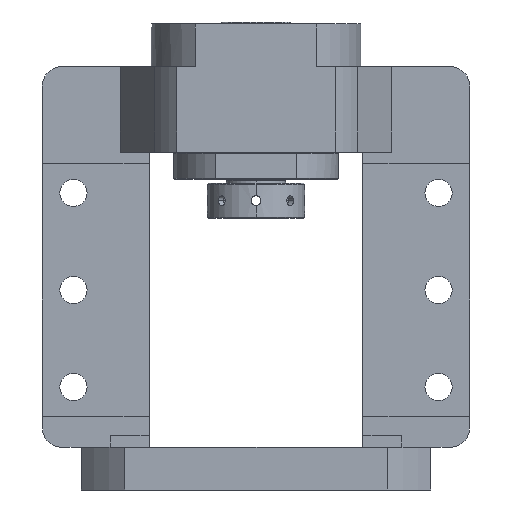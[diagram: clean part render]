
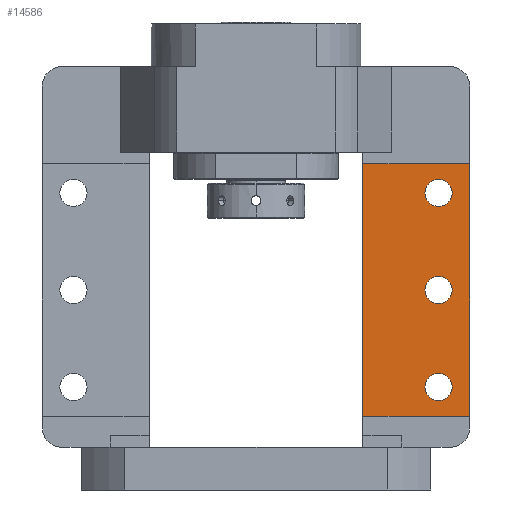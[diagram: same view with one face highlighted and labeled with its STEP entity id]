
A CAD part, front view. The second image highlights one B-rep face of the part: STEP entity #14586.
In plain terms, the highlighted planar face has unit normal (0, -1, 0).
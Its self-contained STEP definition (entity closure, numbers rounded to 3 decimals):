
#226 = DIRECTION ( 'NONE',  ( 0., -1., 0. ) ) ;
#375 = CARTESIAN_POINT ( 'NONE',  ( 94., 0., 60. ) ) ;
#487 = ORIENTED_EDGE ( 'NONE', *, *, #16020, .F. ) ;
#503 = CARTESIAN_POINT ( 'NONE',  ( 110., 0., 168. ) ) ;
#720 = CARTESIAN_POINT ( 'NONE',  ( 55., 0., 38. ) ) ;
#952 = ORIENTED_EDGE ( 'NONE', *, *, #11366, .F. ) ;
#1624 = LINE ( 'NONE', #19996, #9639 ) ;
#1986 = CIRCLE ( 'NONE', #18065, 7. ) ;
#2028 = CARTESIAN_POINT ( 'NONE',  ( 110., 0., 38. ) ) ;
#2405 = FACE_BOUND ( 'NONE', #4244, .T. ) ;
#2435 = VERTEX_POINT ( 'NONE', #17541 ) ;
#2658 = DIRECTION ( 'NONE',  ( 0., -1., 0. ) ) ;
#2905 = FACE_OUTER_BOUND ( 'NONE', #15928, .T. ) ;
#3050 = DIRECTION ( 'NONE',  ( 0., -1., 0. ) ) ;
#3333 = EDGE_CURVE ( 'NONE', #17802, #8301, #1624, .T. ) ;
#3632 = CIRCLE ( 'NONE', #13938, 7. ) ;
#3665 = DIRECTION ( 'NONE',  ( 0., -1., 0. ) ) ;
#3685 = VECTOR ( 'NONE', #12301, 1000. ) ;
#3752 = AXIS2_PLACEMENT_3D ( 'NONE', #16427, #6860, #18009 ) ;
#3910 = ORIENTED_EDGE ( 'NONE', *, *, #9132, .F. ) ;
#3972 = AXIS2_PLACEMENT_3D ( 'NONE', #16397, #6824, #17973 ) ;
#3989 = AXIS2_PLACEMENT_3D ( 'NONE', #18564, #2658, #13873 ) ;
#3997 = ORIENTED_EDGE ( 'NONE', *, *, #11210, .F. ) ;
#4244 = EDGE_LOOP ( 'NONE', ( #487, #3997 ) ) ;
#4266 = VERTEX_POINT ( 'NONE', #375 ) ;
#4500 = CARTESIAN_POINT ( 'NONE',  ( 94., 0., 110. ) ) ;
#4532 = EDGE_LOOP ( 'NONE', ( #20206, #952 ) ) ;
#4954 = EDGE_CURVE ( 'NONE', #13237, #2435, #12405, .T. ) ;
#5251 = CARTESIAN_POINT ( 'NONE',  ( 94., 0., 146. ) ) ;
#5500 = CARTESIAN_POINT ( 'NONE',  ( 55., 0., 168. ) ) ;
#5769 = AXIS2_PLACEMENT_3D ( 'NONE', #9090, #20234, #10722 ) ;
#5813 = PLANE ( 'NONE',  #3989 ) ;
#6274 = VERTEX_POINT ( 'NONE', #8384 ) ;
#6661 = FACE_BOUND ( 'NONE', #4532, .T. ) ;
#6824 = DIRECTION ( 'NONE',  ( 0., -1., 0. ) ) ;
#6860 = DIRECTION ( 'NONE',  ( 0., -1., 0. ) ) ;
#6996 = CARTESIAN_POINT ( 'NONE',  ( 94., 0., 160. ) ) ;
#7112 = DIRECTION ( 'NONE',  ( 0., 0., -1. ) ) ;
#7347 = ORIENTED_EDGE ( 'NONE', *, *, #13136, .T. ) ;
#7650 = VERTEX_POINT ( 'NONE', #20256 ) ;
#8301 = VERTEX_POINT ( 'NONE', #720 ) ;
#8384 = CARTESIAN_POINT ( 'NONE',  ( 110., 0., 38. ) ) ;
#8624 = EDGE_LOOP ( 'NONE', ( #10908, #14917 ) ) ;
#9090 = CARTESIAN_POINT ( 'NONE',  ( 94., 0., 153. ) ) ;
#9132 = EDGE_CURVE ( 'NONE', #19938, #6274, #16295, .T. ) ;
#9235 = AXIS2_PLACEMENT_3D ( 'NONE', #13277, #3665, #14883 ) ;
#9639 = VECTOR ( 'NONE', #13680, 1000. ) ;
#9809 = CARTESIAN_POINT ( 'NONE',  ( 94., 0., 53. ) ) ;
#10722 = DIRECTION ( 'NONE',  ( 0., 0., -1. ) ) ;
#10908 = ORIENTED_EDGE ( 'NONE', *, *, #15718, .F. ) ;
#11050 = CIRCLE ( 'NONE', #5769, 7. ) ;
#11210 = EDGE_CURVE ( 'NONE', #4266, #7650, #1986, .T. ) ;
#11366 = EDGE_CURVE ( 'NONE', #15287, #16824, #12262, .T. ) ;
#11430 = DIRECTION ( 'NONE',  ( 0., 0., -1. ) ) ;
#11644 = DIRECTION ( 'NONE',  ( 1., 0., 0. ) ) ;
#12262 = CIRCLE ( 'NONE', #3752, 7. ) ;
#12301 = DIRECTION ( 'NONE',  ( -1., 0., 0. ) ) ;
#12373 = CARTESIAN_POINT ( 'NONE',  ( 110., 0., 168. ) ) ;
#12405 = CIRCLE ( 'NONE', #3972, 7. ) ;
#12578 = CIRCLE ( 'NONE', #9235, 7. ) ;
#12654 = CARTESIAN_POINT ( 'NONE',  ( 94., 0., 103. ) ) ;
#12721 = LINE ( 'NONE', #12373, #3685 ) ;
#13136 = EDGE_CURVE ( 'NONE', #19938, #17802, #12721, .T. ) ;
#13237 = VERTEX_POINT ( 'NONE', #4500 ) ;
#13277 = CARTESIAN_POINT ( 'NONE',  ( 94., 0., 53. ) ) ;
#13435 = CARTESIAN_POINT ( 'NONE',  ( 110., 0., 225. ) ) ;
#13680 = DIRECTION ( 'NONE',  ( 0., 0., -1. ) ) ;
#13873 = DIRECTION ( 'NONE',  ( 0., 0., -1. ) ) ;
#13926 = VECTOR ( 'NONE', #11644, 1000. ) ;
#13938 = AXIS2_PLACEMENT_3D ( 'NONE', #12654, #3050, #14258 ) ;
#14258 = DIRECTION ( 'NONE',  ( 0., 0., -1. ) ) ;
#14586 = ADVANCED_FACE ( 'NONE', ( #6661, #2405, #15189, #2905 ), #5813, .T. ) ;
#14883 = DIRECTION ( 'NONE',  ( 0., 0., -1. ) ) ;
#14917 = ORIENTED_EDGE ( 'NONE', *, *, #4954, .F. ) ;
#15183 = EDGE_CURVE ( 'NONE', #8301, #6274, #17632, .T. ) ;
#15189 = FACE_BOUND ( 'NONE', #8624, .T. ) ;
#15287 = VERTEX_POINT ( 'NONE', #6996 ) ;
#15718 = EDGE_CURVE ( 'NONE', #2435, #13237, #3632, .T. ) ;
#15821 = ORIENTED_EDGE ( 'NONE', *, *, #15183, .T. ) ;
#15928 = EDGE_LOOP ( 'NONE', ( #3910, #7347, #18391, #15821 ) ) ;
#16020 = EDGE_CURVE ( 'NONE', #7650, #4266, #12578, .T. ) ;
#16295 = LINE ( 'NONE', #13435, #20010 ) ;
#16397 = CARTESIAN_POINT ( 'NONE',  ( 94., 0., 103. ) ) ;
#16427 = CARTESIAN_POINT ( 'NONE',  ( 94., 0., 153. ) ) ;
#16824 = VERTEX_POINT ( 'NONE', #5251 ) ;
#17541 = CARTESIAN_POINT ( 'NONE',  ( 94., 0., 96. ) ) ;
#17632 = LINE ( 'NONE', #2028, #13926 ) ;
#17802 = VERTEX_POINT ( 'NONE', #5500 ) ;
#17973 = DIRECTION ( 'NONE',  ( 0., 0., -1. ) ) ;
#18009 = DIRECTION ( 'NONE',  ( 0., 0., -1. ) ) ;
#18065 = AXIS2_PLACEMENT_3D ( 'NONE', #9809, #226, #11430 ) ;
#18391 = ORIENTED_EDGE ( 'NONE', *, *, #3333, .T. ) ;
#18553 = EDGE_CURVE ( 'NONE', #16824, #15287, #11050, .T. ) ;
#18564 = CARTESIAN_POINT ( 'NONE',  ( 110., 0., 225. ) ) ;
#19938 = VERTEX_POINT ( 'NONE', #503 ) ;
#19996 = CARTESIAN_POINT ( 'NONE',  ( 55., 0., 225. ) ) ;
#20010 = VECTOR ( 'NONE', #7112, 1000. ) ;
#20206 = ORIENTED_EDGE ( 'NONE', *, *, #18553, .F. ) ;
#20234 = DIRECTION ( 'NONE',  ( 0., -1., 0. ) ) ;
#20256 = CARTESIAN_POINT ( 'NONE',  ( 94., 0., 46. ) ) ;
